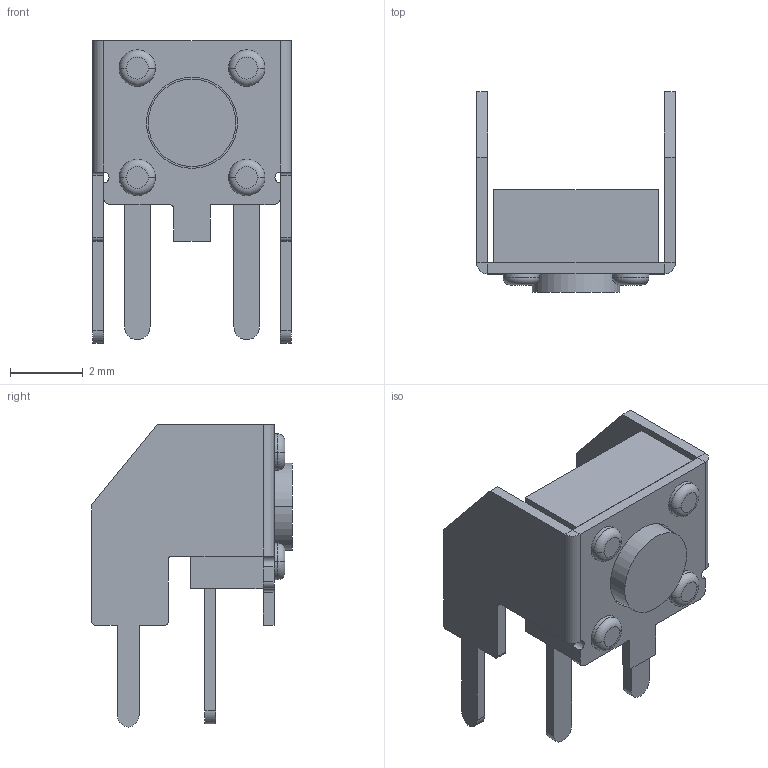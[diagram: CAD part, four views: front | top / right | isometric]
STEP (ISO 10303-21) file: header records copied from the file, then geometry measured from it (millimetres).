
FILE_DESCRIPTION((''),'2;1');
FILE_NAME('JQC4545-C0701-01G-109_ASM','2026-04-21T17:04:58',('Admin'),(''),'CREO PARAMETRIC BY PTC INC, 2019224','CREO PARAMETRIC BY PTC INC, 2019224','');
FILE_SCHEMA(('AUTOMOTIVE_DESIGN { 1 0 10303 214 1 1 1 1 }'));
Length unit declared in the file: millimetre
Products named in the file (3): JQC4545-C0701-01G-109_04; JQC4545-C0701-01G-109_05; JQC4545-C0701-01G-109_ASM
Assembly tree (2 placements, depth 2):
  JQC4545-C0701-01G-109_ASM
    JQC4545-C0701-01G-109_04
    JQC4545-C0701-01G-109_05
Bounding box: 5.45 x 5.5 x 8.3 mm (x, y, z)
Volume: 64.7 mm3; surface area: 247 mm2
Topology: 2 solids, 2 shells, 114 faces, 279 edges, 186 vertices
Faces by surface type: plane 59, cylinder 47, torus 8
Entity records: 3925 total; most frequent: DIRECTION 639, CARTESIAN_POINT 585, ORIENTED_EDGE 546, EDGE_CURVE 273, AXIS2_PLACEMENT_3D 235, VERTEX_POINT 174, VECTOR 169, LINE 169
